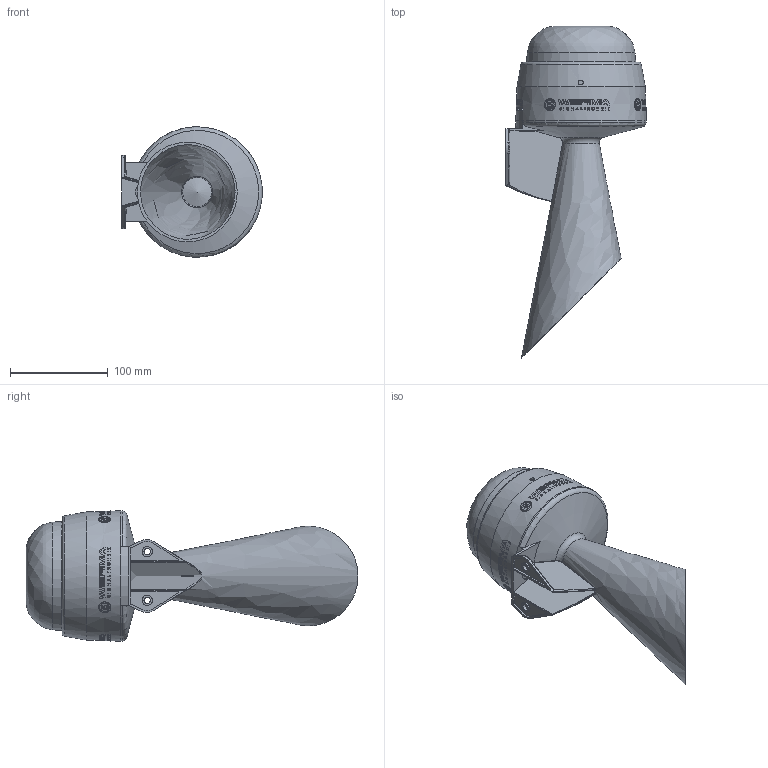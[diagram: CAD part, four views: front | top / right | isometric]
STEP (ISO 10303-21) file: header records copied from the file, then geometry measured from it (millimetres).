
FILE_DESCRIPTION(/* description */ ('Customer part'),/* implementation_level */ '2;1');
FILE_NAME(/* name */ 'C:\CEWorkDir\0050569C0EFC1ED8A298B99B819440C0\in\800000006121_PRT_000.step',/* time_stamp */ '2018-07-16T15:49:31+02:00',/* author */ ('IMPORT'),/* organization */ ('WERMA Signaltechnik GmbH+Co.KG'),/* preprocessor_version */ 'ST-DEVELOPER v17',/* originating_system */ 'Autodesk Inventor 2018',/* authorisation */ 'public');
FILE_SCHEMA (('AUTOMOTIVE_DESIGN { 1 0 10303 214 3 1 1 }'));
Length unit declared in the file: millimetre
Products named in the file (1): 800000006121
Bounding box: 143.57 x 339.78 x 133.32 mm (x, y, z)
Volume: 1357491.1 mm3; surface area: 156283.3 mm2
Topology: 1 solids, 5 shells, 1133 faces, 3064 edges, 2041 vertices
Faces by surface type: bspline 745, plane 216, cone 121, cylinder 42, torus 6, sphere 3
Full cylindrical faces by diameter (mm): 6.5 x2
Entity records: 122112 total; most frequent: CARTESIAN_POINT 98620, ORIENTED_EDGE 6126, EDGE_CURVE 3063, DIRECTION 2458, VERTEX_POINT 2041, B_SPLINE_CURVE_WITH_KNOTS 1666, EDGE_LOOP 1240, FACE_OUTER_BOUND 1133
